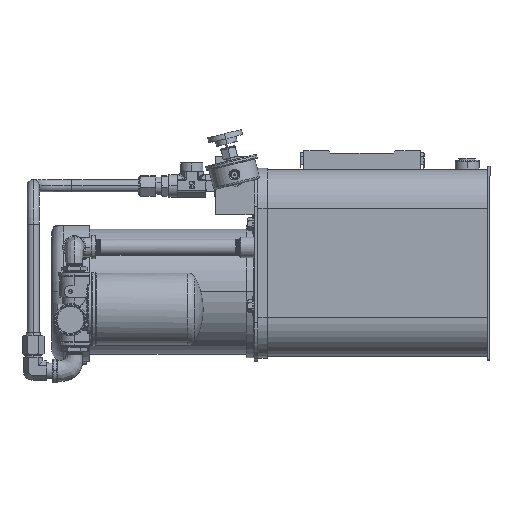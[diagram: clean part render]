
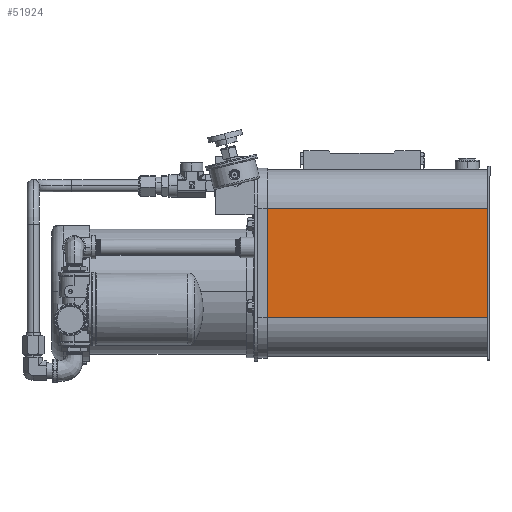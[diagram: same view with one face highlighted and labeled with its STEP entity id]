
A CAD part, top view. The second image highlights one B-rep face of the part: STEP entity #51924.
In plain terms, the highlighted planar face has unit normal (0, 0, 1).
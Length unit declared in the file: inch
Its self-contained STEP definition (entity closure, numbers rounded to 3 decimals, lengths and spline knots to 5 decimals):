
#2549 = CARTESIAN_POINT ( 'NONE',  ( -0.20042, 1.07175, 20.9546 ) ) ;
#3816 = ORIENTED_EDGE ( 'NONE', *, *, #157443, .F. ) ;
#13031 = ORIENTED_EDGE ( 'NONE', *, *, #57695, .T. ) ;
#20340 = VECTOR ( 'NONE', #79071, 39.37008 ) ;
#25000 = CARTESIAN_POINT ( 'NONE',  ( -0.07542, 1.07175, 20.9546 ) ) ;
#25996 = ORIENTED_EDGE ( 'NONE', *, *, #55723, .T. ) ;
#28670 = VECTOR ( 'NONE', #86157, 39.37008 ) ;
#29074 = DIRECTION ( 'NONE',  ( 1., 0., 0. ) ) ;
#35426 = EDGE_LOOP ( 'NONE', ( #3816, #57745, #25996, #13031 ) ) ;
#44457 = LINE ( 'NONE', #131822, #82786 ) ;
#45464 = EDGE_CURVE ( 'NONE', #70439, #54453, #44457, .T. ) ;
#51924 = ADVANCED_FACE ( 'NONE', ( #159424 ), #66237, .T. ) ;
#54453 = VERTEX_POINT ( 'NONE', #144926 ) ;
#55723 = EDGE_CURVE ( 'NONE', #70439, #101469, #69287, .T. ) ;
#56785 = CARTESIAN_POINT ( 'NONE',  ( 11.67998, 1.07175, 20.9546 ) ) ;
#57695 = EDGE_CURVE ( 'NONE', #101469, #61652, #112209, .T. ) ;
#57745 = ORIENTED_EDGE ( 'NONE', *, *, #45464, .F. ) ;
#61652 = VERTEX_POINT ( 'NONE', #160931 ) ;
#63272 = CARTESIAN_POINT ( 'NONE',  ( 11.67998, 8.88425, 20.9546 ) ) ;
#66237 = PLANE ( 'NONE',  #74377 ) ;
#69287 = LINE ( 'NONE', #93725, #20340 ) ;
#70439 = VERTEX_POINT ( 'NONE', #25000 ) ;
#74377 = AXIS2_PLACEMENT_3D ( 'NONE', #2549, #102131, #151954 ) ;
#79071 = DIRECTION ( 'NONE',  ( 1., 0., 0. ) ) ;
#82786 = VECTOR ( 'NONE', #143258, 39.37008 ) ;
#86157 = DIRECTION ( 'NONE',  ( 0., 1., 0. ) ) ;
#93725 = CARTESIAN_POINT ( 'NONE',  ( -0.20042, 1.07175, 20.9546 ) ) ;
#101469 = VERTEX_POINT ( 'NONE', #56785 ) ;
#102131 = DIRECTION ( 'NONE',  ( 0., 0., 1. ) ) ;
#112209 = LINE ( 'NONE', #63272, #28670 ) ;
#129936 = VECTOR ( 'NONE', #29074, 39.37008 ) ;
#131822 = CARTESIAN_POINT ( 'NONE',  ( -0.07542, 1.07175, 20.9546 ) ) ;
#140886 = LINE ( 'NONE', #153167, #129936 ) ;
#143258 = DIRECTION ( 'NONE',  ( 0., 1., 0. ) ) ;
#144926 = CARTESIAN_POINT ( 'NONE',  ( -0.07542, 6.69675, 20.9546 ) ) ;
#151954 = DIRECTION ( 'NONE',  ( 0., 1., 0. ) ) ;
#153167 = CARTESIAN_POINT ( 'NONE',  ( -0.20042, 6.69675, 20.9546 ) ) ;
#157443 = EDGE_CURVE ( 'NONE', #54453, #61652, #140886, .T. ) ;
#159424 = FACE_OUTER_BOUND ( 'NONE', #35426, .T. ) ;
#160931 = CARTESIAN_POINT ( 'NONE',  ( 11.67998, 6.69675, 20.9546 ) ) ;
